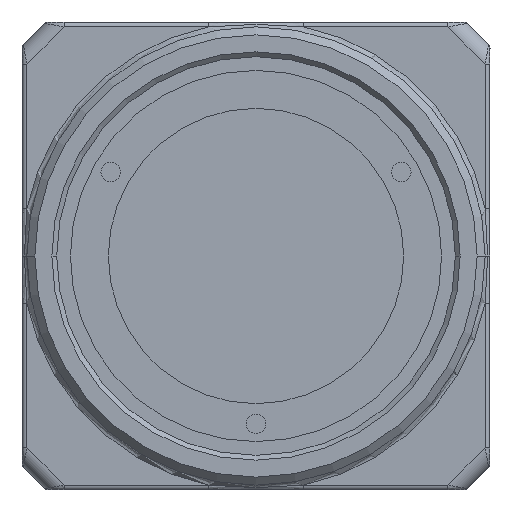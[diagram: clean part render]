
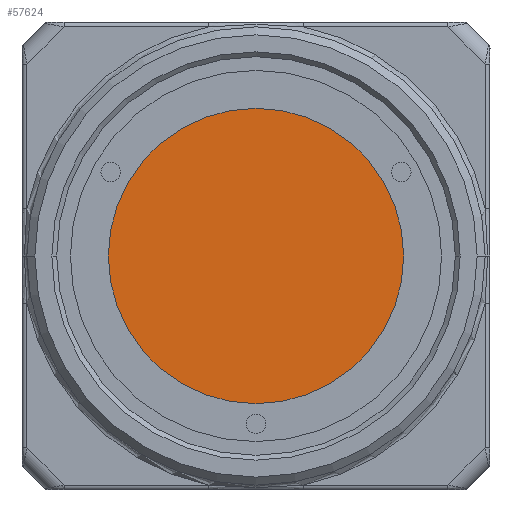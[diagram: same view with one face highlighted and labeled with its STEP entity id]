
A CAD part, left-side view. The second image highlights one B-rep face of the part: STEP entity #57624.
In plain terms, the highlighted planar face has unit normal (-1, 0, 0).
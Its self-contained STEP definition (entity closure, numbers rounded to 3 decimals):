
#20987=CARTESIAN_POINT('',(0.1,0.,0.));
#20988=DIRECTION('',(1.,0.,0.));
#20989=DIRECTION('',(0.,1.,0.));
#20990=AXIS2_PLACEMENT_3D('',#20987,#20988,#20989);
#20992=CARTESIAN_POINT('',(0.1,0.,0.));
#20993=DIRECTION('',(1.,0.,0.));
#20994=DIRECTION('',(0.,-1.,0.));
#20995=AXIS2_PLACEMENT_3D('',#20992,#20993,#20994);
#29104=CARTESIAN_POINT('',(0.1,9.15,0.));
#29105=CARTESIAN_POINT('',(0.1,-9.15,0.));
#29106=VERTEX_POINT('',#29104);
#29107=VERTEX_POINT('',#29105);
#57614=CARTESIAN_POINT('',(0.1,0.,0.));
#57615=DIRECTION('',(1.,0.,0.));
#57616=DIRECTION('',(0.,-1.,0.));
#57617=AXIS2_PLACEMENT_3D('',#57614,#57615,#57616);
#57618=PLANE('',#57617);
#57619=ORIENTED_EDGE('',*,*,#57604,.T.);
#57621=ORIENTED_EDGE('',*,*,#57620,.T.);
#57622=EDGE_LOOP('',(#57619,#57621));
#57623=FACE_OUTER_BOUND('',#57622,.F.);
#57624=ADVANCED_FACE('',(#57623),#57618,.F.);
#20991=CIRCLE('',#20990,9.15);
#20996=CIRCLE('',#20995,9.15);
#57604=EDGE_CURVE('',#29106,#29107,#20991,.T.);
#57620=EDGE_CURVE('',#29107,#29106,#20996,.T.);
